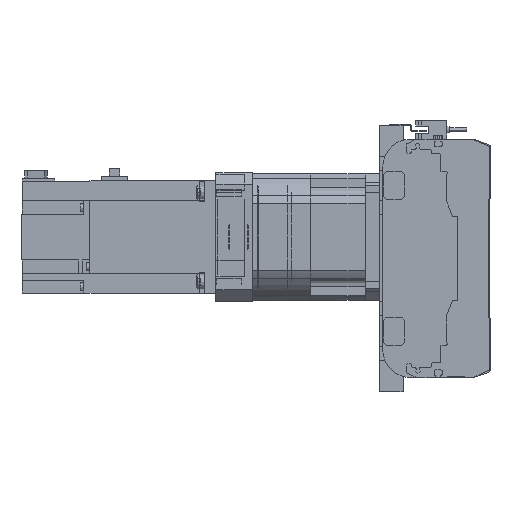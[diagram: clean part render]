
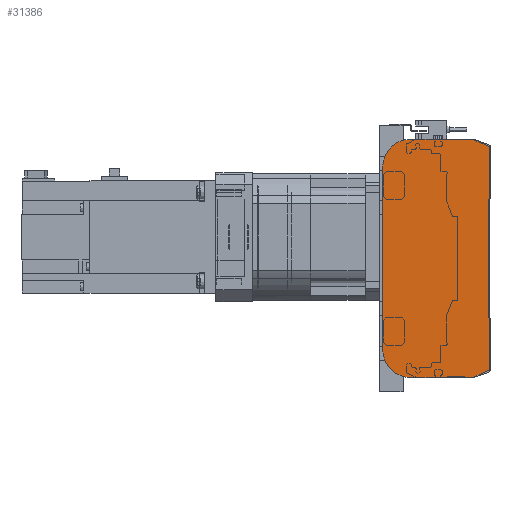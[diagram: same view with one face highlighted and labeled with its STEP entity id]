
A CAD part, left-side view. The second image highlights one B-rep face of the part: STEP entity #31386.
In plain terms, the highlighted planar face has unit normal (-1, 0, 0).
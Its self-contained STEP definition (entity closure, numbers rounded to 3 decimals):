
#2566=CIRCLE('',#34305,2.);
#2567=CIRCLE('',#34308,2.);
#2568=CIRCLE('',#34311,20.);
#2569=CIRCLE('',#34314,20.);
#8927=ORIENTED_EDGE('',*,*,#15293,.F.);
#8928=ORIENTED_EDGE('',*,*,#15371,.F.);
#8929=ORIENTED_EDGE('',*,*,#15369,.F.);
#8930=ORIENTED_EDGE('',*,*,#15367,.F.);
#8931=ORIENTED_EDGE('',*,*,#15005,.F.);
#8932=ORIENTED_EDGE('',*,*,#15366,.F.);
#8933=ORIENTED_EDGE('',*,*,#15364,.F.);
#8934=ORIENTED_EDGE('',*,*,#15362,.F.);
#8935=ORIENTED_EDGE('',*,*,#15360,.F.);
#8936=ORIENTED_EDGE('',*,*,#15358,.F.);
#15005=EDGE_CURVE('',#18489,#18490,#21109,.T.);
#15293=EDGE_CURVE('',#18561,#18562,#21223,.T.);
#15358=EDGE_CURVE('',#18562,#18603,#21268,.T.);
#15360=EDGE_CURVE('',#18603,#18604,#2566,.T.);
#15362=EDGE_CURVE('',#18604,#18605,#21271,.T.);
#15364=EDGE_CURVE('',#18605,#18606,#2567,.T.);
#15366=EDGE_CURVE('',#18606,#18489,#21274,.T.);
#15367=EDGE_CURVE('',#18490,#18607,#2568,.T.);
#15369=EDGE_CURVE('',#18607,#18608,#21276,.T.);
#15371=EDGE_CURVE('',#18608,#18561,#2569,.T.);
#18489=VERTEX_POINT('',#53549);
#18490=VERTEX_POINT('',#53551);
#18561=VERTEX_POINT('',#53962);
#18562=VERTEX_POINT('',#53964);
#18603=VERTEX_POINT('',#54094);
#18604=VERTEX_POINT('',#54098);
#18605=VERTEX_POINT('',#54102);
#18606=VERTEX_POINT('',#54106);
#18607=VERTEX_POINT('',#54112);
#18608=VERTEX_POINT('',#54116);
#21109=LINE('',#53550,#23588);
#21223=LINE('',#53963,#23702);
#21268=LINE('',#54093,#23747);
#21271=LINE('',#54101,#23750);
#21274=LINE('',#54109,#23753);
#21276=LINE('',#54115,#23755);
#23588=VECTOR('',#41445,1000.);
#23702=VECTOR('',#42013,1000.);
#23747=VECTOR('',#42146,1000.);
#23750=VECTOR('',#42155,1000.);
#23753=VECTOR('',#42164,1000.);
#23755=VECTOR('',#42172,1000.);
#25680=EDGE_LOOP('',(#8927,#8928,#8929,#8930,#8931,#8932,#8933,#8934,#8935,
#8936));
#28287=FACE_BOUND('',#25680,.T.);
#29894=PLANE('',#34316);
#31386=ADVANCED_FACE('',(#28287),#29894,.F.);
#34305=AXIS2_PLACEMENT_3D('',#54097,#42150,#42151);
#34308=AXIS2_PLACEMENT_3D('',#54105,#42159,#42160);
#34311=AXIS2_PLACEMENT_3D('',#54111,#42167,#42168);
#34314=AXIS2_PLACEMENT_3D('',#54119,#42176,#42177);
#34316=AXIS2_PLACEMENT_3D('',#54121,#42180,#42181);
#41445=DIRECTION('',(0.,1.,0.));
#42013=DIRECTION('',(0.,-1.,0.));
#42146=DIRECTION('',(0.,-0.913,-0.408));
#42150=DIRECTION('',(1.,0.,0.));
#42151=DIRECTION('',(0.,0.,-1.));
#42155=DIRECTION('',(0.,0.,-1.));
#42159=DIRECTION('',(1.,0.,0.));
#42160=DIRECTION('',(0.,0.,-1.));
#42164=DIRECTION('',(0.,0.913,-0.408));
#42167=DIRECTION('',(1.,0.,0.));
#42168=DIRECTION('',(0.,0.,-1.));
#42172=DIRECTION('',(0.,0.,1.));
#42176=DIRECTION('',(1.,0.,0.));
#42177=DIRECTION('',(0.,0.,-1.));
#42180=DIRECTION('',(1.,0.,0.));
#42181=DIRECTION('',(0.,0.,-1.));
#53549=CARTESIAN_POINT('',(0.,12.33,-85.));
#53550=CARTESIAN_POINT('',(0.,12.33,-85.));
#53551=CARTESIAN_POINT('',(0.,56.5,-85.));
#53962=CARTESIAN_POINT('',(0.,56.5,85.));
#53963=CARTESIAN_POINT('',(0.,56.5,85.));
#53964=CARTESIAN_POINT('',(0.,12.33,85.));
#54093=CARTESIAN_POINT('',(0.,12.33,85.));
#54094=CARTESIAN_POINT('',(0.,1.684,80.239));
#54097=CARTESIAN_POINT('',(0.,2.5,78.413));
#54098=CARTESIAN_POINT('',(0.,0.5,78.413));
#54101=CARTESIAN_POINT('',(0.,0.5,78.413));
#54102=CARTESIAN_POINT('',(0.,0.5,-78.413));
#54105=CARTESIAN_POINT('',(0.,2.5,-78.413));
#54106=CARTESIAN_POINT('',(0.,1.684,-80.239));
#54109=CARTESIAN_POINT('',(0.,1.684,-80.239));
#54111=CARTESIAN_POINT('',(0.,56.5,-65.));
#54112=CARTESIAN_POINT('',(0.,76.5,-65.));
#54115=CARTESIAN_POINT('',(0.,76.5,-65.));
#54116=CARTESIAN_POINT('',(0.,76.5,65.));
#54119=CARTESIAN_POINT('',(0.,56.5,65.));
#54121=CARTESIAN_POINT('',(0.,2.5,78.413));
